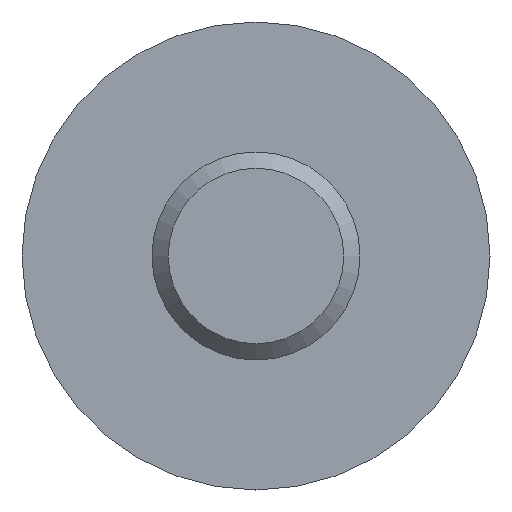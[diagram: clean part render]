
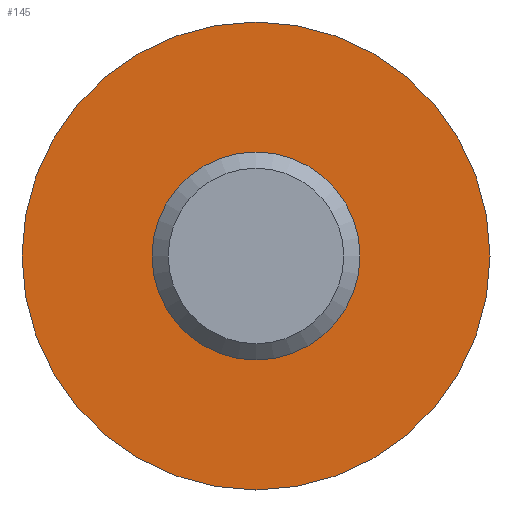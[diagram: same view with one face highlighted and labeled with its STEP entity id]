
A CAD part, front view. The second image highlights one B-rep face of the part: STEP entity #145.
In plain terms, the highlighted planar face has unit normal (0, -1, 0).
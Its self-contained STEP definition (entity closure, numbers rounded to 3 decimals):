
#108=CARTESIAN_POINT('',(10.739,22.32,-9.899));
#109=DIRECTION('',(0.0,1.0,0.0));
#110=DIRECTION('',(0.0,0.0,1.0));
#111=AXIS2_PLACEMENT_3D('',#108,#109,#110);
#112=PLANE('',#111);
#113=CARTESIAN_POINT('',(10.739,22.32,8.999));
#114=VERTEX_POINT('',#113);
#115=CARTESIAN_POINT('',(10.739,22.32,0.0));
#116=DIRECTION('',(0.0,1.,0.0));
#117=DIRECTION('',(-0.581,0.0,0.814));
#118=AXIS2_PLACEMENT_3D('',#115,#116,#117);
#119=CIRCLE('',#118,8.999);
#120=EDGE_CURVE('',#114,#114,#119,.T.);
#121=ORIENTED_EDGE('',*,*,#120,.F.);
#122=CARTESIAN_POINT('',(10.739,22.32,3.999));
#123=VERTEX_POINT('',#122);
#124=CARTESIAN_POINT('',(10.739,22.32,8.999));
#125=DIRECTION('',(0.0,0.0,-1.0));
#126=VECTOR('',#125,5.);
#127=LINE('',#124,#126);
#128=EDGE_CURVE('',#114,#123,#127,.T.);
#129=ORIENTED_EDGE('',*,*,#128,.T.);
#130=CARTESIAN_POINT('',(10.739,22.32,0.0));
#131=DIRECTION('',(0.0,1.0,0.0));
#132=DIRECTION('',(-0.581,0.0,0.814));
#133=AXIS2_PLACEMENT_3D('',#130,#131,#132);
#134=CIRCLE('',#133,3.999);
#135=EDGE_CURVE('',#123,#123,#134,.T.);
#136=ORIENTED_EDGE('',*,*,#135,.T.);
#137=CARTESIAN_POINT('',(10.739,22.32,8.999));
#138=DIRECTION('',(0.0,0.0,-1.0));
#139=VECTOR('',#138,5.);
#140=LINE('',#137,#139);
#141=EDGE_CURVE('',#114,#123,#140,.T.);
#142=ORIENTED_EDGE('',*,*,#141,.F.);
#143=EDGE_LOOP('',(#121,#129,#136,#142));
#144=FACE_OUTER_BOUND('',#143,.T.);
#145=ADVANCED_FACE('',(#144),#112,.F.);
